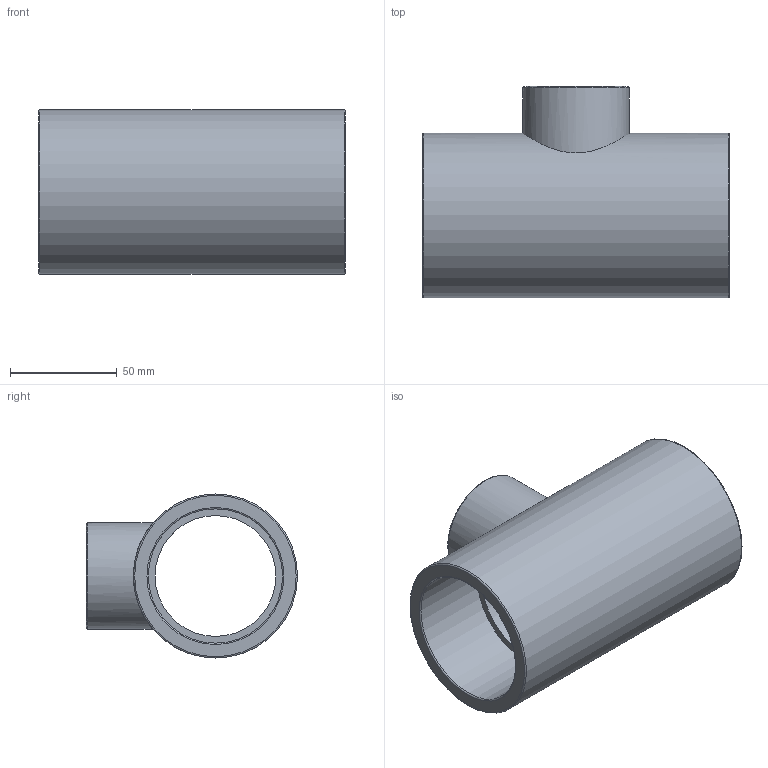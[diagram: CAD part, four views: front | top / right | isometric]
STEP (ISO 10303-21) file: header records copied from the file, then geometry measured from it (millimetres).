
FILE_DESCRIPTION(/* description */ ('PLASSON REDUCER TEE - CEMENT PVC 63-40-63'),/* implementation_level */ '2;1');
FILE_NAME(/* name */ 'C:\Dropbox\KIMPROJECTS-Inventor\99-16-3568-Processing\PVC Catalog 2017\051400\051400063040.ipt.stp',/* time_stamp */ '2017-12-07T16:00:26+02:00',/* author */ ('KIM'),/* organization */ (''),/* preprocessor_version */ 'ST-DEVELOPER v15.6',/* originating_system */ 'Autodesk Inventor 2015',/* authorisation */ '');
FILE_SCHEMA (('AUTOMOTIVE_DESIGN { 1 0 10303 214 3 1 1 }'));
Length unit declared in the file: millimetre
Products named in the file (1): 051400063040
Bounding box: 144 x 99 x 77 mm (x, y, z)
Volume: 268801.1 mm3; surface area: 72187.1 mm2
Topology: 1 solids, 1 shells, 19 faces, 39 edges, 24 vertices
Faces by surface type: cylinder 7, torus 6, plane 6
Full cylindrical faces by diameter (mm): 36 x1, 40 x1, 50 x1, 56.7 x1, 63 x2, 77 x1
Entity records: 542 total; most frequent: CARTESIAN_POINT 182, DIRECTION 76, EDGE_LOOP 40, ORIENTED_EDGE 40, AXIS2_PLACEMENT_3D 38, FACE_BOUND 21, VERTEX_POINT 20, EDGE_CURVE 20
